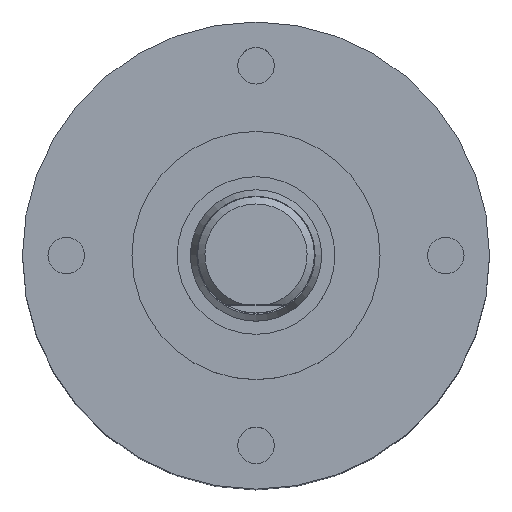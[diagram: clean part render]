
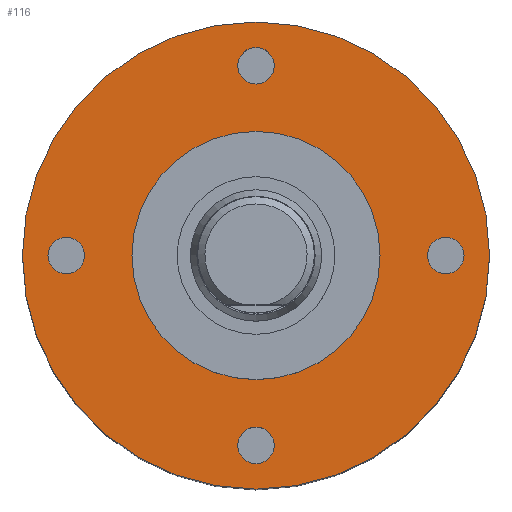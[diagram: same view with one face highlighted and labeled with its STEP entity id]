
A CAD part, top view. The second image highlights one B-rep face of the part: STEP entity #116.
In plain terms, the highlighted planar face has unit normal (0, 0, 1).
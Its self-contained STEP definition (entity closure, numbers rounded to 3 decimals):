
#34=PLANE('',#545);
#56=FACE_BOUND('',#182,.T.);
#57=FACE_BOUND('',#183,.T.);
#58=FACE_BOUND('',#184,.T.);
#59=FACE_BOUND('',#185,.T.);
#60=FACE_BOUND('',#186,.T.);
#61=FACE_BOUND('',#187,.T.);
#116=ADVANCED_FACE('',(#56,#57,#58,#59,#60,#61),#34,.T.);
#182=EDGE_LOOP('',(#267));
#183=EDGE_LOOP('',(#268));
#184=EDGE_LOOP('',(#269));
#185=EDGE_LOOP('',(#270));
#186=EDGE_LOOP('',(#271));
#187=EDGE_LOOP('',(#272));
#267=ORIENTED_EDGE('',*,*,#389,.T.);
#268=ORIENTED_EDGE('',*,*,#390,.T.);
#269=ORIENTED_EDGE('',*,*,#391,.T.);
#270=ORIENTED_EDGE('',*,*,#392,.T.);
#271=ORIENTED_EDGE('',*,*,#393,.F.);
#272=ORIENTED_EDGE('',*,*,#387,.T.);
#348=VERTEX_POINT('',#810);
#350=VERTEX_POINT('',#816);
#351=VERTEX_POINT('',#818);
#352=VERTEX_POINT('',#820);
#353=VERTEX_POINT('',#822);
#354=VERTEX_POINT('',#824);
#387=EDGE_CURVE('',#348,#348,#457,.T.);
#389=EDGE_CURVE('',#350,#350,#459,.T.);
#390=EDGE_CURVE('',#351,#351,#460,.T.);
#391=EDGE_CURVE('',#352,#352,#461,.T.);
#392=EDGE_CURVE('',#353,#353,#462,.T.);
#393=EDGE_CURVE('',#354,#354,#463,.T.);
#457=CIRCLE('',#536,16.);
#459=CIRCLE('',#540,1.25);
#460=CIRCLE('',#541,1.25);
#461=CIRCLE('',#542,1.25);
#462=CIRCLE('',#543,1.25);
#463=CIRCLE('',#544,8.5);
#536=AXIS2_PLACEMENT_3D('',#809,#638,#639);
#540=AXIS2_PLACEMENT_3D('',#815,#646,#647);
#541=AXIS2_PLACEMENT_3D('',#817,#648,#649);
#542=AXIS2_PLACEMENT_3D('',#819,#650,#651);
#543=AXIS2_PLACEMENT_3D('',#821,#652,#653);
#544=AXIS2_PLACEMENT_3D('',#823,#654,#655);
#545=AXIS2_PLACEMENT_3D('',#825,#656,#657);
#638=DIRECTION('',(0.,0.,1.));
#639=DIRECTION('',(1.,0.,0.));
#646=DIRECTION('',(0.,0.,-1.));
#647=DIRECTION('',(0.,-1.,0.));
#648=DIRECTION('',(0.,0.,-1.));
#649=DIRECTION('',(1.,0.,0.));
#650=DIRECTION('',(0.,0.,-1.));
#651=DIRECTION('',(0.,1.,0.));
#652=DIRECTION('',(0.,0.,-1.));
#653=DIRECTION('',(-1.,0.,0.));
#654=DIRECTION('',(0.,0.,1.));
#655=DIRECTION('',(1.,0.,0.));
#656=DIRECTION('',(0.,0.,1.));
#657=DIRECTION('',(1.,0.,0.));
#809=CARTESIAN_POINT('',(0.,0.,33.9));
#810=CARTESIAN_POINT('',(16.,0.,33.9));
#815=CARTESIAN_POINT('',(-13.,0.,33.9));
#816=CARTESIAN_POINT('',(-13.,-1.25,33.9));
#817=CARTESIAN_POINT('',(0.,-13.,33.9));
#818=CARTESIAN_POINT('',(1.25,-13.,33.9));
#819=CARTESIAN_POINT('',(13.,0.,33.9));
#820=CARTESIAN_POINT('',(13.,1.25,33.9));
#821=CARTESIAN_POINT('',(0.,13.,33.9));
#822=CARTESIAN_POINT('',(-1.25,13.,33.9));
#823=CARTESIAN_POINT('',(0.,0.,33.9));
#824=CARTESIAN_POINT('',(8.5,0.,33.9));
#825=CARTESIAN_POINT('',(0.,0.,33.9));
